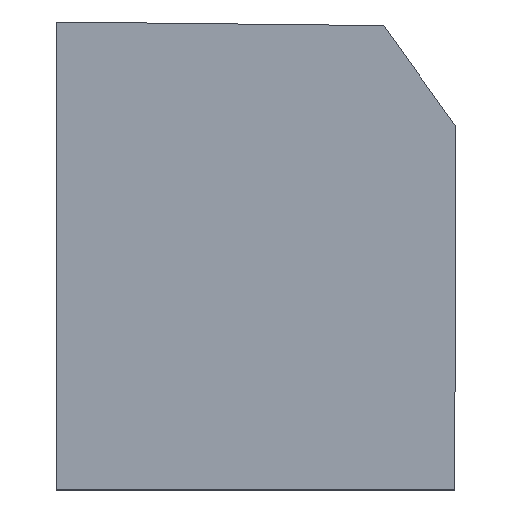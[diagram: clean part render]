
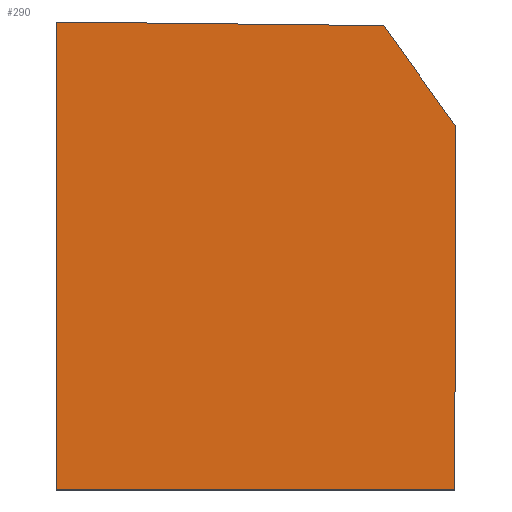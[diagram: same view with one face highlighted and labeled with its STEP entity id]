
A CAD part, top view. The second image highlights one B-rep face of the part: STEP entity #290.
In plain terms, the highlighted planar face has unit normal (0, 0, 1).
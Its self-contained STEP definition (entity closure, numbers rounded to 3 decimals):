
#32 = PLANE('',#33);
#33 = AXIS2_PLACEMENT_3D('',#34,#35,#36);
#34 = CARTESIAN_POINT('',(-31.,197.,17.));
#35 = DIRECTION('',(1.,0.,-0.));
#36 = DIRECTION('',(0.,-1.,0.));
#57 = VERTEX_POINT('',#58);
#58 = CARTESIAN_POINT('',(-31.,197.,20.));
#72 = PLANE('',#73);
#73 = AXIS2_PLACEMENT_3D('',#74,#75,#76);
#74 = CARTESIAN_POINT('',(60.,196.,17.));
#75 = DIRECTION('',(-0.011,-1.,0.));
#76 = DIRECTION('',(-1.,0.011,0.));
#84 = EDGE_CURVE('',#57,#85,#87,.T.);
#85 = VERTEX_POINT('',#86);
#86 = CARTESIAN_POINT('',(-31.,67.,20.));
#87 = SURFACE_CURVE('',#88,(#92,#99),.PCURVE_S1.);
#88 = LINE('',#89,#90);
#89 = CARTESIAN_POINT('',(-31.,197.,20.));
#90 = VECTOR('',#91,1.);
#91 = DIRECTION('',(0.,-1.,0.));
#92 = PCURVE('',#32,#93);
#93 = DEFINITIONAL_REPRESENTATION('',(#94),#98);
#94 = LINE('',#95,#96);
#95 = CARTESIAN_POINT('',(0.,-3.));
#96 = VECTOR('',#97,1.);
#97 = DIRECTION('',(1.,0.));
#98 = ( GEOMETRIC_REPRESENTATION_CONTEXT(2) 
PARAMETRIC_REPRESENTATION_CONTEXT() REPRESENTATION_CONTEXT('2D SPACE',''
  ) );
#99 = PCURVE('',#100,#105);
#100 = PLANE('',#101);
#101 = AXIS2_PLACEMENT_3D('',#102,#103,#104);
#102 = CARTESIAN_POINT('',(22.339,0.106,20.));
#103 = DIRECTION('',(0.,0.,1.));
#104 = DIRECTION('',(1.,0.,-0.));
#105 = DEFINITIONAL_REPRESENTATION('',(#106),#110);
#106 = LINE('',#107,#108);
#107 = CARTESIAN_POINT('',(-53.339,196.894));
#108 = VECTOR('',#109,1.);
#109 = DIRECTION('',(0.,-1.));
#110 = ( GEOMETRIC_REPRESENTATION_CONTEXT(2) 
PARAMETRIC_REPRESENTATION_CONTEXT() REPRESENTATION_CONTEXT('2D SPACE',''
  ) );
#126 = PLANE('',#127);
#127 = AXIS2_PLACEMENT_3D('',#128,#129,#130);
#128 = CARTESIAN_POINT('',(-60.,67.,0.));
#129 = DIRECTION('',(-0.,1.,0.));
#130 = DIRECTION('',(0.,0.,1.));
#181 = PLANE('',#182);
#182 = AXIS2_PLACEMENT_3D('',#183,#184,#185);
#183 = CARTESIAN_POINT('',(79.,-168.,17.));
#184 = DIRECTION('',(-1.,0.003,0.));
#185 = DIRECTION('',(0.003,1.,0.));
#209 = PLANE('',#210);
#210 = AXIS2_PLACEMENT_3D('',#211,#212,#213);
#211 = CARTESIAN_POINT('',(80.,168.,17.));
#212 = DIRECTION('',(-0.814,-0.581,0.));
#213 = DIRECTION('',(-0.581,0.814,0.));
#245 = EDGE_CURVE('',#246,#85,#248,.T.);
#246 = VERTEX_POINT('',#247);
#247 = CARTESIAN_POINT('',(79.699,67.,20.));
#248 = SURFACE_CURVE('',#249,(#253,#260),.PCURVE_S1.);
#249 = LINE('',#250,#251);
#250 = CARTESIAN_POINT('',(-18.831,67.,20.));
#251 = VECTOR('',#252,1.);
#252 = DIRECTION('',(-1.,-0.,0.));
#253 = PCURVE('',#126,#254);
#254 = DEFINITIONAL_REPRESENTATION('',(#255),#259);
#255 = LINE('',#256,#257);
#256 = CARTESIAN_POINT('',(20.,41.169));
#257 = VECTOR('',#258,1.);
#258 = DIRECTION('',(0.,-1.));
#259 = ( GEOMETRIC_REPRESENTATION_CONTEXT(2) 
PARAMETRIC_REPRESENTATION_CONTEXT() REPRESENTATION_CONTEXT('2D SPACE',''
  ) );
#260 = PCURVE('',#100,#261);
#261 = DEFINITIONAL_REPRESENTATION('',(#262),#266);
#262 = LINE('',#263,#264);
#263 = CARTESIAN_POINT('',(-41.169,66.894));
#264 = VECTOR('',#265,1.);
#265 = DIRECTION('',(-1.,0.));
#266 = ( GEOMETRIC_REPRESENTATION_CONTEXT(2) 
PARAMETRIC_REPRESENTATION_CONTEXT() REPRESENTATION_CONTEXT('2D SPACE',''
  ) );
#290 = ADVANCED_FACE('',(#291),#100,.T.);
#291 = FACE_BOUND('',#292,.T.);
#292 = EDGE_LOOP('',(#293,#294,#295,#318,#341));
#293 = ORIENTED_EDGE('',*,*,#84,.T.);
#294 = ORIENTED_EDGE('',*,*,#245,.F.);
#295 = ORIENTED_EDGE('',*,*,#296,.T.);
#296 = EDGE_CURVE('',#246,#297,#299,.T.);
#297 = VERTEX_POINT('',#298);
#298 = CARTESIAN_POINT('',(80.,168.,20.));
#299 = SURFACE_CURVE('',#300,(#304,#311),.PCURVE_S1.);
#300 = LINE('',#301,#302);
#301 = CARTESIAN_POINT('',(79.,-168.,20.));
#302 = VECTOR('',#303,1.);
#303 = DIRECTION('',(0.003,1.,0.));
#304 = PCURVE('',#100,#305);
#305 = DEFINITIONAL_REPRESENTATION('',(#306),#310);
#306 = LINE('',#307,#308);
#307 = CARTESIAN_POINT('',(56.661,-168.106));
#308 = VECTOR('',#309,1.);
#309 = DIRECTION('',(0.003,1.));
#310 = ( GEOMETRIC_REPRESENTATION_CONTEXT(2) 
PARAMETRIC_REPRESENTATION_CONTEXT() REPRESENTATION_CONTEXT('2D SPACE',''
  ) );
#311 = PCURVE('',#181,#312);
#312 = DEFINITIONAL_REPRESENTATION('',(#313),#317);
#313 = LINE('',#314,#315);
#314 = CARTESIAN_POINT('',(0.,-3.));
#315 = VECTOR('',#316,1.);
#316 = DIRECTION('',(1.,0.));
#317 = ( GEOMETRIC_REPRESENTATION_CONTEXT(2) 
PARAMETRIC_REPRESENTATION_CONTEXT() REPRESENTATION_CONTEXT('2D SPACE',''
  ) );
#318 = ORIENTED_EDGE('',*,*,#319,.T.);
#319 = EDGE_CURVE('',#297,#320,#322,.T.);
#320 = VERTEX_POINT('',#321);
#321 = CARTESIAN_POINT('',(60.,196.,20.));
#322 = SURFACE_CURVE('',#323,(#327,#334),.PCURVE_S1.);
#323 = LINE('',#324,#325);
#324 = CARTESIAN_POINT('',(80.,168.,20.));
#325 = VECTOR('',#326,1.);
#326 = DIRECTION('',(-0.581,0.814,0.));
#327 = PCURVE('',#100,#328);
#328 = DEFINITIONAL_REPRESENTATION('',(#329),#333);
#329 = LINE('',#330,#331);
#330 = CARTESIAN_POINT('',(57.661,167.894));
#331 = VECTOR('',#332,1.);
#332 = DIRECTION('',(-0.581,0.814));
#333 = ( GEOMETRIC_REPRESENTATION_CONTEXT(2) 
PARAMETRIC_REPRESENTATION_CONTEXT() REPRESENTATION_CONTEXT('2D SPACE',''
  ) );
#334 = PCURVE('',#209,#335);
#335 = DEFINITIONAL_REPRESENTATION('',(#336),#340);
#336 = LINE('',#337,#338);
#337 = CARTESIAN_POINT('',(0.,-3.));
#338 = VECTOR('',#339,1.);
#339 = DIRECTION('',(1.,0.));
#340 = ( GEOMETRIC_REPRESENTATION_CONTEXT(2) 
PARAMETRIC_REPRESENTATION_CONTEXT() REPRESENTATION_CONTEXT('2D SPACE',''
  ) );
#341 = ORIENTED_EDGE('',*,*,#342,.T.);
#342 = EDGE_CURVE('',#320,#57,#343,.T.);
#343 = SURFACE_CURVE('',#344,(#348,#355),.PCURVE_S1.);
#344 = LINE('',#345,#346);
#345 = CARTESIAN_POINT('',(60.,196.,20.));
#346 = VECTOR('',#347,1.);
#347 = DIRECTION('',(-1.,0.011,0.));
#348 = PCURVE('',#100,#349);
#349 = DEFINITIONAL_REPRESENTATION('',(#350),#354);
#350 = LINE('',#351,#352);
#351 = CARTESIAN_POINT('',(37.661,195.894));
#352 = VECTOR('',#353,1.);
#353 = DIRECTION('',(-1.,0.011));
#354 = ( GEOMETRIC_REPRESENTATION_CONTEXT(2) 
PARAMETRIC_REPRESENTATION_CONTEXT() REPRESENTATION_CONTEXT('2D SPACE',''
  ) );
#355 = PCURVE('',#72,#356);
#356 = DEFINITIONAL_REPRESENTATION('',(#357),#361);
#357 = LINE('',#358,#359);
#358 = CARTESIAN_POINT('',(0.,-3.));
#359 = VECTOR('',#360,1.);
#360 = DIRECTION('',(1.,0.));
#361 = ( GEOMETRIC_REPRESENTATION_CONTEXT(2) 
PARAMETRIC_REPRESENTATION_CONTEXT() REPRESENTATION_CONTEXT('2D SPACE',''
  ) );
